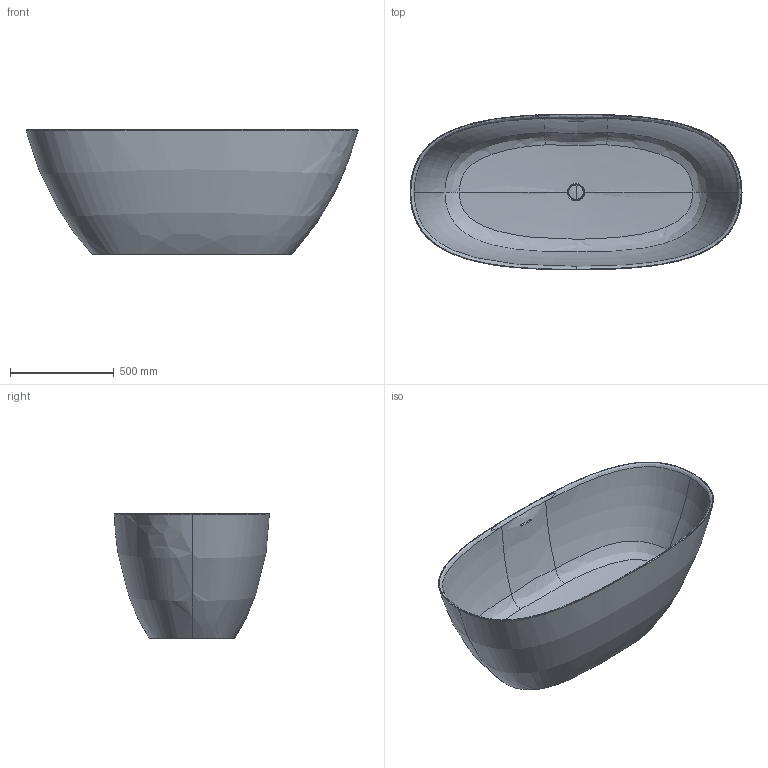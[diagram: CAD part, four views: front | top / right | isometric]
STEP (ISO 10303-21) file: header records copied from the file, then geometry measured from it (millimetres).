
FILE_DESCRIPTION(/* description */ (''),/* implementation_level */ '2;1');
FILE_NAME(/* name */ 'AP160V',/* time_stamp */ '2024-03-15T09:39:08+01:00',/* author */ (''),/* organization */ (''),/* preprocessor_version */ 'ST-DEVELOPER v16.5',/* originating_system */ 'Rhino 7.36',/* authorisation */ '');
FILE_SCHEMA (('CONFIG_CONTROL_DESIGN'));
Length unit declared in the file: millimetre
Products named in the file (1): Document
Bounding box: 1599.01 x 749.53 x 600 mm (x, y, z)
Volume: 49454268.7 mm3; surface area: 5217970.2 mm2
Topology: 2 solids, 2 shells, 55 faces, 131 edges, 78 vertices
Faces by surface type: bspline 47, plane 6, cylinder 2
Entity records: 42957 total; most frequent: CARTESIAN_POINT 42102, ORIENTED_EDGE 258, EDGE_CURVE 129, B_SPLINE_CURVE_WITH_KNOTS 85, VERTEX_POINT 78, EDGE_LOOP 57, ADVANCED_FACE 55, FACE_OUTER_BOUND 55
